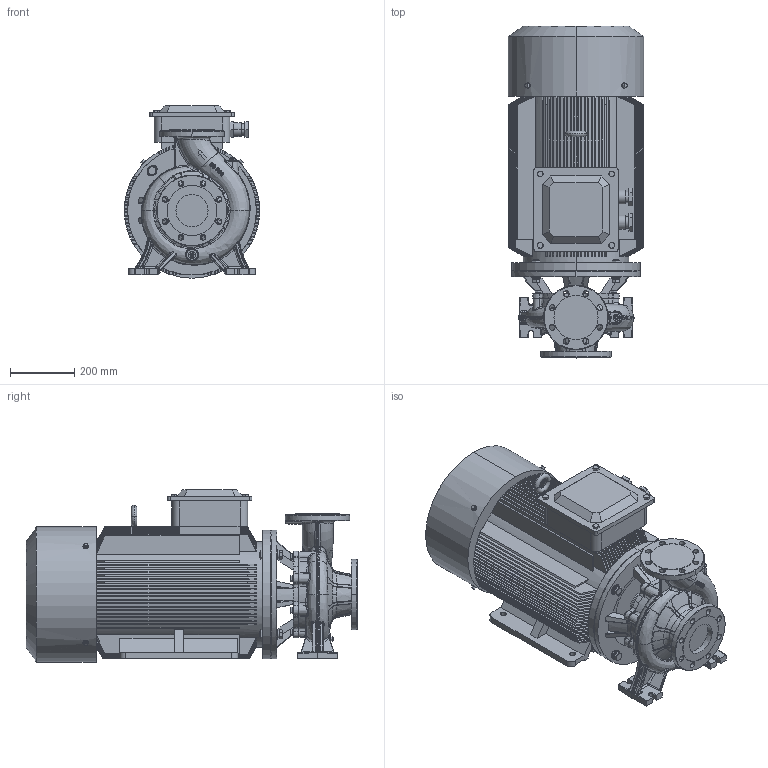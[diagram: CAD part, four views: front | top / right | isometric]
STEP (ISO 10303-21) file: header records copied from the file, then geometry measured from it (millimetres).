
FILE_DESCRIPTION (( 'STEP AP203' ), '1' );
FILE_NAME ('TST80-200-30 安装尺寸图.stp.STEP', '2026-04-28T10:00:42', ( '微软用户' ), ( '微软中国' ), 'SwSTEP 2.0', 'SolidWorks 2020', '' );
FILE_SCHEMA (( 'CONFIG_CONTROL_DESIGN' ));
Products named in the file (1): TST80-200-30 假蚾喜渡芞.stp
Bounding box: 420 x 1030 x 535 mm (x, y, z)
Volume: 105455716.2 mm3; surface area: 5604822.5 mm2
Topology: 1 solids, 1 shells, 2887 faces, 7451 edges, 4646 vertices
Faces by surface type: plane 800, cylinder 793, bspline 611, cone 580, torus 73, sphere 30
Entity records: 174649 total; most frequent: CARTESIAN_POINT 111470, ORIENTED_EDGE 14894, DIRECTION 10895, EDGE_CURVE 7447, VERTEX_POINT 4646, AXIS2_PLACEMENT_3D 4396, B_SPLINE_CURVE_WITH_KNOTS 3065, EDGE_LOOP 3061
